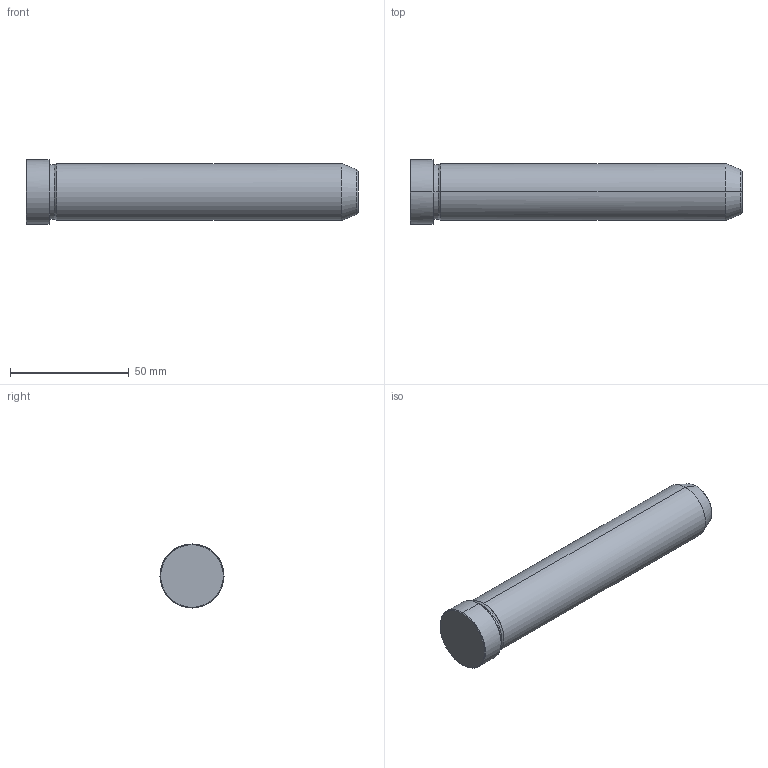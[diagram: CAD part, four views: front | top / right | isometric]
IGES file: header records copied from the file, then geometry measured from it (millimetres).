
Start section: START RECORD GO HERE.
Global section: file name: 549-24X140.igs; native system: DASSAULT SYSTEMES CATIA V5 R20 - www.3ds.com; preprocessor: CATIA Version 5 Release 20 ; author: Utente; organization: NB04-ASUS; date: 20211217.150439; units: millimetre
Bounding box: 140 x 27 x 27 mm (x, y, z)
Surface area: 11580.9 mm2 (no closed solid volume)
Topology: 0 solids, 0 shells, 19 faces, 112 edges, 112 vertices
Faces by surface type: revolution 16, plane 3
